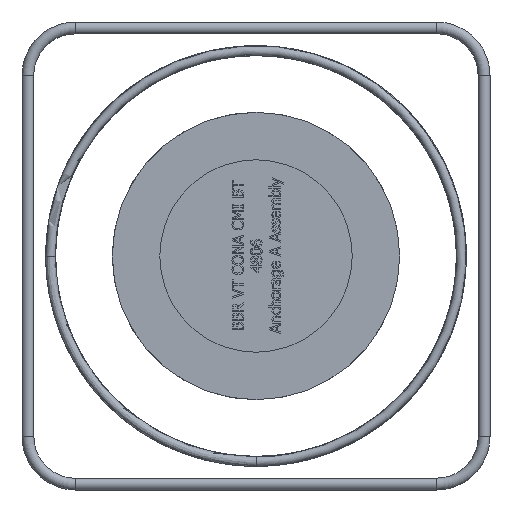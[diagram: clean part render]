
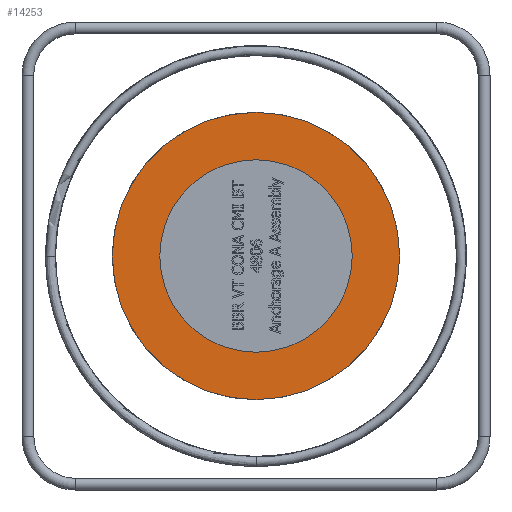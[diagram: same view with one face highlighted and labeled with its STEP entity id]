
A CAD part, left-side view. The second image highlights one B-rep face of the part: STEP entity #14253.
In plain terms, the highlighted planar face has unit normal (-1, 0, 0).
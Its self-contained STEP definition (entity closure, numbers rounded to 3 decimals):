
#3455=PLANE('',#14795);
#3619=FACE_BOUND('',#5237,.T.);
#4362=FACE_OUTER_BOUND('',#5236,.T.);
#5236=EDGE_LOOP('',(#12243));
#5237=EDGE_LOOP('',(#12244));
#5548=CIRCLE('',#14791,162.5);
#5551=CIRCLE('',#14796,242.5);
#6821=VERTEX_POINT('',#24695);
#6828=VERTEX_POINT('',#24769);
#8674=EDGE_CURVE('',#6821,#6821,#5548,.T.);
#8681=EDGE_CURVE('',#6828,#6828,#5551,.T.);
#12243=ORIENTED_EDGE('',*,*,#8681,.T.);
#12244=ORIENTED_EDGE('',*,*,#8674,.T.);
#14253=ADVANCED_FACE('',(#4362,#3619),#3455,.T.);
#14791=AXIS2_PLACEMENT_3D('',#24696,#16874,#16875);
#14795=AXIS2_PLACEMENT_3D('',#24768,#16882,#16883);
#14796=AXIS2_PLACEMENT_3D('',#24770,#16884,#16885);
#16874=DIRECTION('center_axis',(1.,0.,0.));
#16875=DIRECTION('ref_axis',(0.,1.,0.));
#16882=DIRECTION('center_axis',(-1.,0.,0.));
#16883=DIRECTION('ref_axis',(0.,0.,1.));
#16884=DIRECTION('center_axis',(-1.,0.,0.));
#16885=DIRECTION('ref_axis',(0.,-1.,0.));
#24695=CARTESIAN_POINT('',(-340.,162.5,0.));
#24696=CARTESIAN_POINT('Origin',(-340.,0.,0.));
#24768=CARTESIAN_POINT('Origin',(-340.,-188.5,0.));
#24769=CARTESIAN_POINT('',(-340.,-242.5,0.));
#24770=CARTESIAN_POINT('Origin',(-340.,0.,0.));
